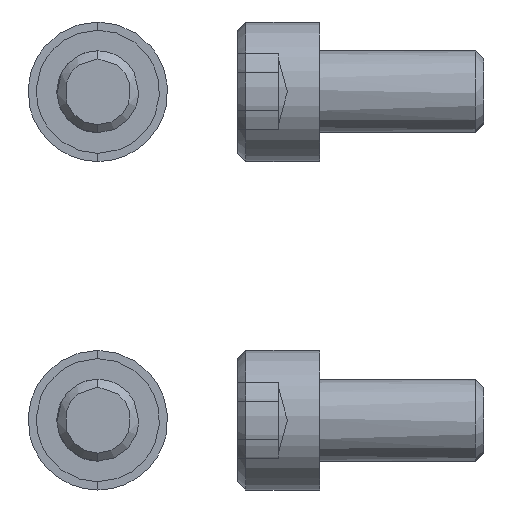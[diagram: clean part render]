
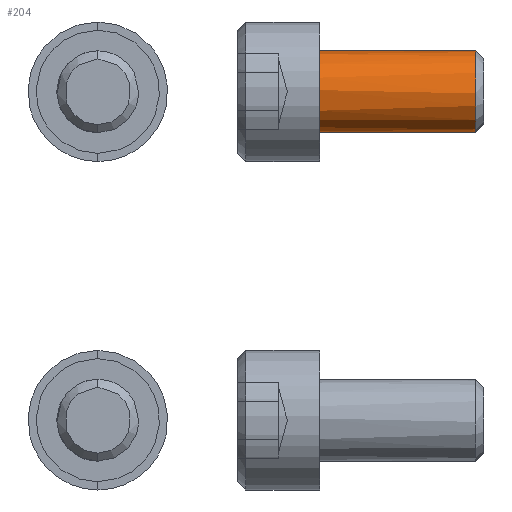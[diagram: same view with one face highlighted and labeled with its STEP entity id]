
A CAD part, left-side view. The second image highlights one B-rep face of the part: STEP entity #204.
In plain terms, the highlighted free-form (B-spline) face has degree [1, 2] with [2, 9] control points.
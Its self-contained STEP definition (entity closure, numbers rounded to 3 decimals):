
#204=ADVANCED_FACE('',(#329),#3739,.T.);
#329=FACE_OUTER_BOUND('',#462,.T.);
#462=EDGE_LOOP('',(#927,#928,#929,#930));
#927=ORIENTED_EDGE('',*,*,#3230,.T.);
#928=ORIENTED_EDGE('',*,*,#3231,.T.);
#929=ORIENTED_EDGE('',*,*,#3232,.T.);
#930=ORIENTED_EDGE('',*,*,#3233,.T.);
#1467=PCURVE('',#3739,#2007);
#1468=PCURVE('',#3739,#2008);
#1469=PCURVE('',#3739,#2009);
#1470=PCURVE('',#3739,#2010);
#1471=PCURVE('',#3740,#2011);
#1544=PCURVE('',#3744,#2084);
#1546=PCURVE('',#3744,#2086);
#1549=PCURVE('',#3695,#2089);
#2007=DEFINITIONAL_REPRESENTATION('',(#2623),#7107);
#2008=DEFINITIONAL_REPRESENTATION('',(#2625),#7107);
#2009=DEFINITIONAL_REPRESENTATION('',(#2626),#7107);
#2010=DEFINITIONAL_REPRESENTATION('',(#2628),#7107);
#2011=DEFINITIONAL_REPRESENTATION('',(#2629),#7107);
#2084=DEFINITIONAL_REPRESENTATION('',(#2720),#7107);
#2086=DEFINITIONAL_REPRESENTATION('',(#2722),#7107);
#2089=DEFINITIONAL_REPRESENTATION('',(#3451),#7107);
#2623=B_SPLINE_CURVE_WITH_KNOTS('',1,(#6746,#6747),.UNSPECIFIED.,.F.,.F.,
(2,2),(0.,7.854),.UNSPECIFIED.);
#2624=B_SPLINE_CURVE_WITH_KNOTS('',1,(#6748,#6749),.UNSPECIFIED.,.F.,.F.,
(2,2),(0.,9.51),.UNSPECIFIED.);
#2625=B_SPLINE_CURVE_WITH_KNOTS('',1,(#6750,#6751),.UNSPECIFIED.,.F.,.F.,
(2,2),(0.,9.51),.UNSPECIFIED.);
#2626=B_SPLINE_CURVE_WITH_KNOTS('',1,(#6757,#6758),.UNSPECIFIED.,.F.,.F.,
(2,2),(-7.854,0.),.UNSPECIFIED.);
#2627=B_SPLINE_CURVE_WITH_KNOTS('',1,(#6759,#6760),.UNSPECIFIED.,.F.,.F.,
(2,2),(0.,9.51),.UNSPECIFIED.);
#2628=B_SPLINE_CURVE_WITH_KNOTS('',1,(#6761,#6762),.UNSPECIFIED.,.F.,.F.,
(2,2),(0.,9.51),.UNSPECIFIED.);
#2629=B_SPLINE_CURVE_WITH_KNOTS('',1,(#6763,#6764),.UNSPECIFIED.,.F.,.F.,
(2,2),(-7.854,0.),.UNSPECIFIED.);
#2720=B_SPLINE_CURVE_WITH_KNOTS('',1,(#7018,#7019),.UNSPECIFIED.,.F.,.F.,
(2,2),(0.,9.51),.UNSPECIFIED.);
#2722=B_SPLINE_CURVE_WITH_KNOTS('',1,(#7027,#7028),.UNSPECIFIED.,.F.,.F.,
(2,2),(0.,9.51),.UNSPECIFIED.);
#2960=SURFACE_CURVE('',#3424,(#1467,#1549),.PCURVE_S1.);
#2961=SURFACE_CURVE('',#2624,(#1468,#1544),.PCURVE_S1.);
#2962=SURFACE_CURVE('',#3425,(#1469,#1471),.PCURVE_S1.);
#2963=SURFACE_CURVE('',#2627,(#1470,#1546),.PCURVE_S1.);
#3230=EDGE_CURVE('',#3595,#3598,#2960,.T.);
#3231=EDGE_CURVE('',#3598,#3597,#2961,.T.);
#3232=EDGE_CURVE('',#3597,#3596,#2962,.T.);
#3233=EDGE_CURVE('',#3596,#3595,#2963,.T.);
#3424=(
BOUNDED_CURVE()
B_SPLINE_CURVE(2,(#6741,#6742,#6743,#6744,#6745),.UNSPECIFIED.,.F.,.F.)
B_SPLINE_CURVE_WITH_KNOTS((3,2,3),(0.,3.927,7.854),
 .UNSPECIFIED.)
CURVE()
GEOMETRIC_REPRESENTATION_ITEM()
RATIONAL_B_SPLINE_CURVE((1.,0.707,1.,0.707,1.))
REPRESENTATION_ITEM('')
);
#3425=(
BOUNDED_CURVE()
B_SPLINE_CURVE(2,(#6752,#6753,#6754,#6755,#6756),.UNSPECIFIED.,.F.,.F.)
B_SPLINE_CURVE_WITH_KNOTS((3,2,3),(-7.854,-3.927,0.),
 .UNSPECIFIED.)
CURVE()
GEOMETRIC_REPRESENTATION_ITEM()
RATIONAL_B_SPLINE_CURVE((1.,0.707,1.,0.707,1.))
REPRESENTATION_ITEM('')
);
#3451=(
BOUNDED_CURVE()
B_SPLINE_CURVE(2,(#7044,#7045,#7046,#7047,#7048),.UNSPECIFIED.,.F.,.F.)
B_SPLINE_CURVE_WITH_KNOTS((3,2,3),(0.,3.927,7.854),
 .UNSPECIFIED.)
CURVE()
GEOMETRIC_REPRESENTATION_ITEM()
RATIONAL_B_SPLINE_CURVE((1.,0.707,1.,0.707,1.))
REPRESENTATION_ITEM('')
);
#3595=VERTEX_POINT('',#6675);
#3596=VERTEX_POINT('',#6676);
#3597=VERTEX_POINT('',#6677);
#3598=VERTEX_POINT('',#6678);
#3695=PLANE('',#3864);
#3739=(
BOUNDED_SURFACE()
B_SPLINE_SURFACE(1,2,((#6510,#6511,#6512,#6513,#6514,#6515,#6516,#6517,#6518),
(#6519,#6520,#6521,#6522,#6523,#6524,#6525,#6526,#6527)),.UNSPECIFIED.,.F.,
 .F.,.F.)
B_SPLINE_SURFACE_WITH_KNOTS((2,2),(3,2,2,2,3),(0.,11.414),(0.,1.571,
3.142,4.712,6.283),.UNSPECIFIED.)
GEOMETRIC_REPRESENTATION_ITEM()
RATIONAL_B_SPLINE_SURFACE(((1.,0.707,1.,0.707,1.,
0.707,1.,0.707,1.),(1.,0.707,1.,0.707,
1.,0.707,1.,0.707,1.)))
REPRESENTATION_ITEM('')
SURFACE()
);
#3740=(
BOUNDED_SURFACE()
B_SPLINE_SURFACE(1,2,((#6528,#6529,#6530,#6531,#6532,#6533,#6534,#6535,#6536),
(#6537,#6538,#6539,#6540,#6541,#6542,#6543,#6544,#6545)),.UNSPECIFIED.,.F.,
 .F.,.F.)
B_SPLINE_SURFACE_WITH_KNOTS((2,2),(3,2,2,2,3),(0.,3.891),(0.,
1.571,3.142,4.712,6.283),
 .UNSPECIFIED.)
GEOMETRIC_REPRESENTATION_ITEM()
RATIONAL_B_SPLINE_SURFACE(((1.,0.707,1.,0.707,1.,
0.707,1.,0.707,1.),(1.,0.707,1.,0.707,
1.,0.707,1.,0.707,1.)))
REPRESENTATION_ITEM('')
SURFACE()
);
#3744=(
BOUNDED_SURFACE()
B_SPLINE_SURFACE(1,2,((#6613,#6614,#6615,#6616,#6617,#6618,#6619,#6620,#6621),
(#6622,#6623,#6624,#6625,#6626,#6627,#6628,#6629,#6630)),.UNSPECIFIED.,.F.,
 .F.,.F.)
B_SPLINE_SURFACE_WITH_KNOTS((2,2),(3,2,2,2,3),(0.,11.414),(0.,1.571,
3.142,4.712,6.283),.UNSPECIFIED.)
GEOMETRIC_REPRESENTATION_ITEM()
RATIONAL_B_SPLINE_SURFACE(((1.,0.707,1.,0.707,1.,
0.707,1.,0.707,1.),(1.,0.707,1.,0.707,
1.,0.707,1.,0.707,1.)))
REPRESENTATION_ITEM('')
SURFACE()
);
#3864=AXIS2_PLACEMENT_3D('',#6631,#3948,$);
#3948=DIRECTION('',(1.,0.,0.));
#6510=CARTESIAN_POINT('',(-0.952,2.5,0.));
#6511=CARTESIAN_POINT('',(-0.952,2.5,-2.5));
#6512=CARTESIAN_POINT('',(-0.952,0.,-2.5));
#6513=CARTESIAN_POINT('',(-0.952,-2.5,-2.5));
#6514=CARTESIAN_POINT('',(-0.952,-2.5,0.));
#6515=CARTESIAN_POINT('',(-0.952,-2.5,2.5));
#6516=CARTESIAN_POINT('',(-0.952,0.,2.5));
#6517=CARTESIAN_POINT('',(-0.952,2.5,2.5));
#6518=CARTESIAN_POINT('',(-0.952,2.5,0.));
#6519=CARTESIAN_POINT('',(10.462,2.5,0.));
#6520=CARTESIAN_POINT('',(10.462,2.5,-2.5));
#6521=CARTESIAN_POINT('',(10.462,0.,-2.5));
#6522=CARTESIAN_POINT('',(10.462,-2.5,-2.5));
#6523=CARTESIAN_POINT('',(10.462,-2.5,0.));
#6524=CARTESIAN_POINT('',(10.462,-2.5,2.5));
#6525=CARTESIAN_POINT('',(10.462,0.,2.5));
#6526=CARTESIAN_POINT('',(10.462,2.5,2.5));
#6527=CARTESIAN_POINT('',(10.462,2.5,0.));
#6528=CARTESIAN_POINT('',(12.01,0.,0.));
#6529=CARTESIAN_POINT('',(12.01,0.,0.));
#6530=CARTESIAN_POINT('',(12.01,0.,0.));
#6531=CARTESIAN_POINT('',(12.01,0.,0.));
#6532=CARTESIAN_POINT('',(12.01,0.,0.));
#6533=CARTESIAN_POINT('',(12.01,0.,0.));
#6534=CARTESIAN_POINT('',(12.01,0.,0.));
#6535=CARTESIAN_POINT('',(12.01,0.,0.));
#6536=CARTESIAN_POINT('',(12.01,0.,0.));
#6537=CARTESIAN_POINT('',(9.258,2.751,0.));
#6538=CARTESIAN_POINT('',(9.258,2.751,2.751));
#6539=CARTESIAN_POINT('',(9.258,0.,2.751));
#6540=CARTESIAN_POINT('',(9.258,-2.751,2.751));
#6541=CARTESIAN_POINT('',(9.258,-2.751,0.));
#6542=CARTESIAN_POINT('',(9.258,-2.751,-2.751));
#6543=CARTESIAN_POINT('',(9.258,0.,-2.751));
#6544=CARTESIAN_POINT('',(9.258,2.751,-2.751));
#6545=CARTESIAN_POINT('',(9.258,2.751,0.));
#6613=CARTESIAN_POINT('',(-0.952,-2.5,0.));
#6614=CARTESIAN_POINT('',(-0.952,-2.5,2.5));
#6615=CARTESIAN_POINT('',(-0.952,0.,2.5));
#6616=CARTESIAN_POINT('',(-0.952,2.5,2.5));
#6617=CARTESIAN_POINT('',(-0.952,2.5,0.));
#6618=CARTESIAN_POINT('',(-0.952,2.5,-2.5));
#6619=CARTESIAN_POINT('',(-0.952,0.,-2.5));
#6620=CARTESIAN_POINT('',(-0.952,-2.5,-2.5));
#6621=CARTESIAN_POINT('',(-0.952,-2.5,0.));
#6622=CARTESIAN_POINT('',(10.462,-2.5,0.));
#6623=CARTESIAN_POINT('',(10.462,-2.5,2.5));
#6624=CARTESIAN_POINT('',(10.462,0.,2.5));
#6625=CARTESIAN_POINT('',(10.462,2.5,2.5));
#6626=CARTESIAN_POINT('',(10.462,2.5,0.));
#6627=CARTESIAN_POINT('',(10.462,2.5,-2.5));
#6628=CARTESIAN_POINT('',(10.462,0.,-2.5));
#6629=CARTESIAN_POINT('',(10.462,-2.5,-2.5));
#6630=CARTESIAN_POINT('',(10.462,-2.5,0.));
#6631=CARTESIAN_POINT('',(0.,5.101,5.101));
#6675=CARTESIAN_POINT('',(0.,0.,2.5));
#6676=CARTESIAN_POINT('',(9.51,0.,2.5));
#6677=CARTESIAN_POINT('',(9.51,0.,-2.5));
#6678=CARTESIAN_POINT('',(0.,0.,-2.5));
#6741=CARTESIAN_POINT('',(0.,0.,2.5));
#6742=CARTESIAN_POINT('',(0.,-2.5,2.5));
#6743=CARTESIAN_POINT('',(0.,-2.5,0.));
#6744=CARTESIAN_POINT('',(0.,-2.5,-2.5));
#6745=CARTESIAN_POINT('',(0.,0.,-2.5));
#6746=CARTESIAN_POINT('',(0.952,4.712));
#6747=CARTESIAN_POINT('',(0.952,1.571));
#6748=CARTESIAN_POINT('',(0.,0.,-2.5));
#6749=CARTESIAN_POINT('',(9.51,0.,-2.5));
#6750=CARTESIAN_POINT('',(0.952,1.571));
#6751=CARTESIAN_POINT('',(10.462,1.571));
#6752=CARTESIAN_POINT('',(9.51,0.,-2.5));
#6753=CARTESIAN_POINT('',(9.51,-2.5,-2.5));
#6754=CARTESIAN_POINT('',(9.51,-2.5,0.));
#6755=CARTESIAN_POINT('',(9.51,-2.5,2.5));
#6756=CARTESIAN_POINT('',(9.51,0.,2.5));
#6757=CARTESIAN_POINT('',(10.462,1.571));
#6758=CARTESIAN_POINT('',(10.462,4.712));
#6759=CARTESIAN_POINT('',(9.51,0.,2.5));
#6760=CARTESIAN_POINT('',(0.,0.,2.5));
#6761=CARTESIAN_POINT('',(10.462,4.712));
#6762=CARTESIAN_POINT('',(0.952,4.712));
#6763=CARTESIAN_POINT('',(3.536,4.712));
#6764=CARTESIAN_POINT('',(3.536,1.571));
#7018=CARTESIAN_POINT('',(0.952,4.712));
#7019=CARTESIAN_POINT('',(10.462,4.712));
#7027=CARTESIAN_POINT('',(10.462,1.571));
#7028=CARTESIAN_POINT('',(0.952,1.571));
#7044=CARTESIAN_POINT('',(0.,0.875));
#7045=CARTESIAN_POINT('',(2.5,0.875));
#7046=CARTESIAN_POINT('',(2.5,3.375));
#7047=CARTESIAN_POINT('',(2.5,5.875));
#7048=CARTESIAN_POINT('',(0.,5.875));
#7107=(
GEOMETRIC_REPRESENTATION_CONTEXT(2)
PARAMETRIC_REPRESENTATION_CONTEXT()
REPRESENTATION_CONTEXT('pspace','')
);
